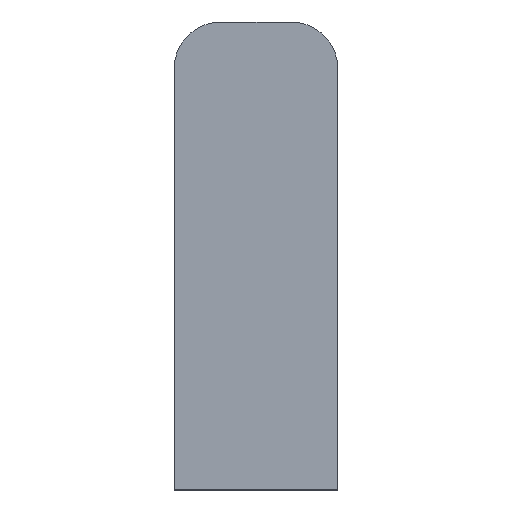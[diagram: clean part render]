
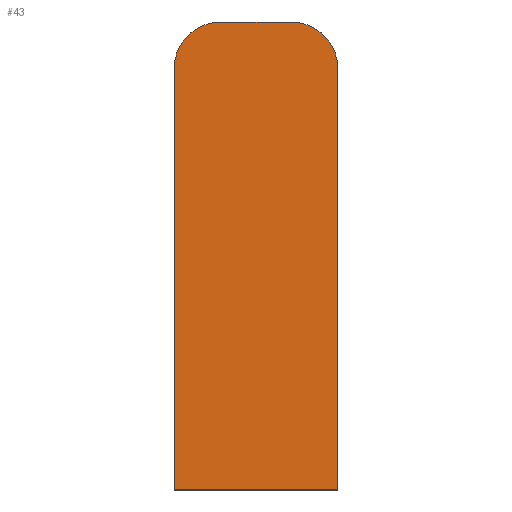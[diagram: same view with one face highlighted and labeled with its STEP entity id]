
A CAD part, front view. The second image highlights one B-rep face of the part: STEP entity #43.
In plain terms, the highlighted planar face has unit normal (0, -1, 0).
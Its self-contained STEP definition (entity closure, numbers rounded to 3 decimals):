
#11 = LINE ( 'NONE', #95, #17 ) ;
#17 = VECTOR ( 'NONE', #96, 1000. ) ;
#19 = CIRCLE ( 'NONE', #234, 3. ) ;
#20 = LINE ( 'NONE', #85, #21 ) ;
#21 = VECTOR ( 'NONE', #86, 1000. ) ;
#27 = CIRCLE ( 'NONE', #232, 3. ) ;
#28 = LINE ( 'NONE', #97, #29 ) ;
#29 = VECTOR ( 'NONE', #98, 1000. ) ;
#30 = LINE ( 'NONE', #133, #31 ) ;
#31 = VECTOR ( 'NONE', #99, 1000. ) ;
#43 = ADVANCED_FACE ( 'NONE', ( #184 ), #269, .F. ) ;
#79 = CARTESIAN_POINT ( 'NONE',  ( 2.25, 0., 10.5 ) ) ;
#81 = DIRECTION ( 'NONE',  ( 0., -1., 0. ) ) ;
#82 = DIRECTION ( 'NONE',  ( -1., 0., 0. ) ) ;
#85 = CARTESIAN_POINT ( 'NONE',  ( 2.25, 0., 13.5 ) ) ;
#86 = DIRECTION ( 'NONE',  ( -1., 0., 0. ) ) ;
#90 = CARTESIAN_POINT ( 'NONE',  ( -2.25, 0., 10.5 ) ) ;
#93 = DIRECTION ( 'NONE',  ( 0., -1., 0. ) ) ;
#94 = DIRECTION ( 'NONE',  ( -1., 0., 0. ) ) ;
#95 = CARTESIAN_POINT ( 'NONE',  ( 5.25, 0., -16.5 ) ) ;
#96 = DIRECTION ( 'NONE',  ( 1., 0., 0. ) ) ;
#97 = CARTESIAN_POINT ( 'NONE',  ( 5.25, 0., -16.5 ) ) ;
#98 = DIRECTION ( 'NONE',  ( 0., 0., 1. ) ) ;
#99 = DIRECTION ( 'NONE',  ( 0., 0., -1. ) ) ;
#100 = CARTESIAN_POINT ( 'NONE',  ( 2.25, 0., 13.5 ) ) ;
#103 = CARTESIAN_POINT ( 'NONE',  ( 5.25, 0., 10.5 ) ) ;
#106 = CARTESIAN_POINT ( 'NONE',  ( -5.25, 0., 10.5 ) ) ;
#107 = CARTESIAN_POINT ( 'NONE',  ( 5.25, 0., -16.5 ) ) ;
#110 = CARTESIAN_POINT ( 'NONE',  ( -2.25, 0., 13.5 ) ) ;
#114 = CARTESIAN_POINT ( 'NONE',  ( -5.25, 0., -16.5 ) ) ;
#133 = CARTESIAN_POINT ( 'NONE',  ( -5.25, 0., -16.5 ) ) ;
#146 = ORIENTED_EDGE ( 'NONE', *, *, #216, .T. ) ;
#148 = ORIENTED_EDGE ( 'NONE', *, *, #219, .T. ) ;
#156 = ORIENTED_EDGE ( 'NONE', *, *, #233, .T. ) ;
#168 = EDGE_LOOP ( 'NONE', ( #156, #146, #148, #187, #188, #189 ) ) ;
#184 = FACE_OUTER_BOUND ( 'NONE', #168, .T. ) ;
#187 = ORIENTED_EDGE ( 'NONE', *, *, #229, .T. ) ;
#188 = ORIENTED_EDGE ( 'NONE', *, *, #236, .T. ) ;
#189 = ORIENTED_EDGE ( 'NONE', *, *, #230, .T. ) ;
#216 = EDGE_CURVE ( 'NONE', #241, #257, #19, .T. ) ;
#219 = EDGE_CURVE ( 'NONE', #257, #265, #20, .T. ) ;
#221 = AXIS2_PLACEMENT_3D ( 'NONE', #254, #243, #242 ) ;
#229 = EDGE_CURVE ( 'NONE', #265, #264, #27, .T. ) ;
#230 = EDGE_CURVE ( 'NONE', #270, #259, #11, .T. ) ;
#232 = AXIS2_PLACEMENT_3D ( 'NONE', #90, #93, #94 ) ;
#233 = EDGE_CURVE ( 'NONE', #259, #241, #28, .T. ) ;
#234 = AXIS2_PLACEMENT_3D ( 'NONE', #79, #81, #82 ) ;
#236 = EDGE_CURVE ( 'NONE', #264, #270, #30, .T. ) ;
#241 = VERTEX_POINT ( 'NONE', #103 ) ;
#242 = DIRECTION ( 'NONE',  ( -1., 0., 0. ) ) ;
#243 = DIRECTION ( 'NONE',  ( 0., 1., 0. ) ) ;
#254 = CARTESIAN_POINT ( 'NONE',  ( 0., 0., -1.5 ) ) ;
#257 = VERTEX_POINT ( 'NONE', #100 ) ;
#259 = VERTEX_POINT ( 'NONE', #107 ) ;
#264 = VERTEX_POINT ( 'NONE', #106 ) ;
#265 = VERTEX_POINT ( 'NONE', #110 ) ;
#269 = PLANE ( 'NONE',  #221 ) ;
#270 = VERTEX_POINT ( 'NONE', #114 ) ;
